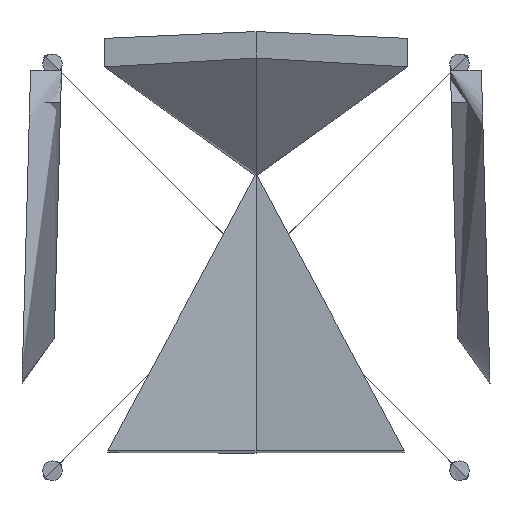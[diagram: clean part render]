
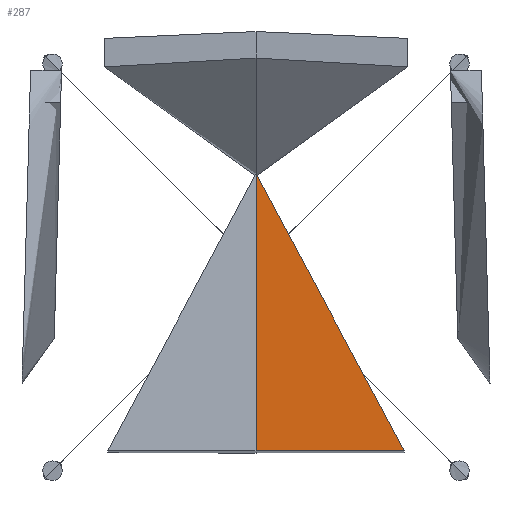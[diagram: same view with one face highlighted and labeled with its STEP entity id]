
A CAD part, top view. The second image highlights one B-rep face of the part: STEP entity #287.
In plain terms, the highlighted free-form (B-spline) face has degree [3, 3] with [4, 9] control points.
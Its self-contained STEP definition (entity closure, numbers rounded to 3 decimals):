
#287=ADVANCED_FACE('',(#411),#1604,.T.);
#411=FACE_OUTER_BOUND('',#535,.T.);
#535=EDGE_LOOP('',(#694,#695,#696,#697,#698,#699));
#694=ORIENTED_EDGE('',*,*,#1187,.T.);
#695=ORIENTED_EDGE('',*,*,#1191,.T.);
#696=ORIENTED_EDGE('',*,*,#1184,.T.);
#697=ORIENTED_EDGE('',*,*,#1193,.T.);
#698=ORIENTED_EDGE('',*,*,#1192,.F.);
#699=ORIENTED_EDGE('',*,*,#1194,.F.);
#1184=EDGE_CURVE('',#1443,#1442,#1658,.T.);
#1187=EDGE_CURVE('',#1446,#1444,#1661,.T.);
#1191=EDGE_CURVE('',#1444,#1443,#1665,.T.);
#1192=EDGE_CURVE('',#1447,#1448,#1666,.T.);
#1193=EDGE_CURVE('',#1442,#1448,#1667,.T.);
#1194=EDGE_CURVE('',#1446,#1447,#1668,.T.);
#1442=VERTEX_POINT('',#8550);
#1443=VERTEX_POINT('',#8551);
#1444=VERTEX_POINT('',#8552);
#1446=VERTEX_POINT('',#8554);
#1447=VERTEX_POINT('',#8555);
#1448=VERTEX_POINT('',#8556);
#1604=B_SPLINE_SURFACE_WITH_KNOTS('',3,3,((#6168,#6169,#6170,#6171,#6172,
#6173,#6174,#6175,#6176),(#6177,#6178,#6179,#6180,#6181,#6182,#6183,#6184,
#6185),(#6186,#6187,#6188,#6189,#6190,#6191,#6192,#6193,#6194),(#6195,#6196,
#6197,#6198,#6199,#6200,#6201,#6202,#6203)),.UNSPECIFIED.,.F.,.F.,.F.,(4,
4),(4,1,1,1,1,1,4),(0.,313.738),(-441.798,-368.165,
-294.532,-220.899,-147.266,-73.633,
0.),.UNSPECIFIED.);
#1658=B_SPLINE_CURVE_WITH_KNOTS('',3,(#8914,#8915,#8916,#8917,#8918,#8919,
#8920,#8921,#8922),.UNSPECIFIED.,.F.,.F.,(4,1,1,1,1,1,4),(0.,73.633,
147.266,220.899,294.532,368.165,441.798),
 .UNSPECIFIED.);
#1661=B_SPLINE_CURVE_WITH_KNOTS('',3,(#8939,#8940,#8941,#8942,#8943,#8944,
#8945,#8946,#8947,#8948,#8949,#8950,#8951,#8952,#8953,#8954,#8955,#8956,
#8957,#8958,#8959,#8960,#8961,#8962,#8963),.UNSPECIFIED.,.F.,.F.,(4,1,1,
1,1,1,1,1,1,1,1,1,1,1,2,1,1,1,1,1,1,4),(0.,4.583,9.166,
13.749,18.332,22.915,27.498,36.664,
54.995,73.327,91.659,100.825,109.991,
119.157,120.717,128.322,146.654,164.986,
183.318,201.649,219.981,238.313),
 .UNSPECIFIED.);
#1665=B_SPLINE_CURVE_WITH_KNOTS('',3,(#9070,#9071,#9072,#9073),
 .UNSPECIFIED.,.F.,.F.,(4,4),(-146.56,0.),.UNSPECIFIED.);
#1666=B_SPLINE_CURVE_WITH_KNOTS('',3,(#9074,#9075,#9076,#9077,#9078),
 .UNSPECIFIED.,.F.,.F.,(4,1,4),(298.037,368.165,441.798),
 .UNSPECIFIED.);
#1667=B_SPLINE_CURVE_WITH_KNOTS('',3,(#9079,#9080,#9081,#9082,#9083,#9084,
#9085),.UNSPECIFIED.,.F.,.F.,(4,3,4),(0.,146.56,313.738),
 .UNSPECIFIED.);
#1668=B_SPLINE_CURVE_WITH_KNOTS('',3,(#9086,#9087,#9088,#9089,#9090,#9091,
#9092,#9093),.UNSPECIFIED.,.F.,.F.,(4,1,1,1,1,4),(67.257,73.633,
147.266,220.899,294.532,298.037),
 .UNSPECIFIED.);
#6168=CARTESIAN_POINT('',(0.,104.914,445.761));
#6169=CARTESIAN_POINT('',(72.274,104.914,445.761));
#6170=CARTESIAN_POINT('',(139.814,105.391,455.316));
#6171=CARTESIAN_POINT('',(167.339,105.784,463.164));
#6172=CARTESIAN_POINT('',(204.305,105.447,456.434));
#6173=CARTESIAN_POINT('',(243.614,104.723,441.949));
#6174=CARTESIAN_POINT('',(201.158,103.488,417.242));
#6175=CARTESIAN_POINT('',(109.984,102.476,397.004));
#6176=CARTESIAN_POINT('',(0.,102.476,397.004));
#6177=CARTESIAN_POINT('',(0.,0.465,450.983));
#6178=CARTESIAN_POINT('',(72.274,0.465,450.983));
#6179=CARTESIAN_POINT('',(139.814,0.943,460.538));
#6180=CARTESIAN_POINT('',(167.339,1.335,468.386));
#6181=CARTESIAN_POINT('',(204.305,0.999,461.657));
#6182=CARTESIAN_POINT('',(243.614,0.275,447.172));
#6183=CARTESIAN_POINT('',(201.158,-0.961,422.465));
#6184=CARTESIAN_POINT('',(99.643,-2.234,397.004));
#6185=CARTESIAN_POINT('',(0.,-2.234,397.004));
#6186=CARTESIAN_POINT('',(0.,-103.985,456.205));
#6187=CARTESIAN_POINT('',(72.274,-103.985,456.205));
#6188=CARTESIAN_POINT('',(139.814,-103.507,465.761));
#6189=CARTESIAN_POINT('',(167.339,-103.115,473.608));
#6190=CARTESIAN_POINT('',(204.305,-103.451,466.879));
#6191=CARTESIAN_POINT('',(243.614,-104.175,452.394));
#6192=CARTESIAN_POINT('',(201.158,-105.411,427.687));
#6193=CARTESIAN_POINT('',(89.303,-106.945,397.004));
#6194=CARTESIAN_POINT('',(0.,-106.945,397.004));
#6195=CARTESIAN_POINT('',(0.,-208.433,461.428));
#6196=CARTESIAN_POINT('',(72.274,-208.433,461.428));
#6197=CARTESIAN_POINT('',(139.814,-207.955,470.983));
#6198=CARTESIAN_POINT('',(167.339,-207.563,478.831));
#6199=CARTESIAN_POINT('',(204.305,-207.899,472.102));
#6200=CARTESIAN_POINT('',(243.614,-208.623,457.617));
#6201=CARTESIAN_POINT('',(201.158,-209.859,432.91));
#6202=CARTESIAN_POINT('',(78.963,-211.654,397.004));
#6203=CARTESIAN_POINT('',(0.,-211.654,397.004));
#8550=CARTESIAN_POINT('',(0.,104.914,445.761));
#8551=CARTESIAN_POINT('',(0.,102.476,397.004));
#8552=CARTESIAN_POINT('',(0.,-44.267,397.004));
#8554=CARTESIAN_POINT('',(167.387,-210.276,424.555));
#8555=CARTESIAN_POINT('',(167.387,-207.686,476.358));
#8556=CARTESIAN_POINT('',(0.,-208.433,461.428));
#8914=CARTESIAN_POINT('',(0.,102.476,397.004));
#8915=CARTESIAN_POINT('',(109.984,102.476,397.004));
#8916=CARTESIAN_POINT('',(201.158,103.488,417.242));
#8917=CARTESIAN_POINT('',(243.614,104.723,441.949));
#8918=CARTESIAN_POINT('',(204.305,105.447,456.434));
#8919=CARTESIAN_POINT('',(167.339,105.784,463.164));
#8920=CARTESIAN_POINT('',(139.814,105.391,455.316));
#8921=CARTESIAN_POINT('',(72.274,104.914,445.761));
#8922=CARTESIAN_POINT('',(0.,104.914,445.761));
#8939=CARTESIAN_POINT('',(167.387,-210.276,424.555));
#8940=CARTESIAN_POINT('',(166.318,-209.227,424.154));
#8941=CARTESIAN_POINT('',(164.186,-207.135,423.363));
#8942=CARTESIAN_POINT('',(161.002,-204.009,422.204));
#8943=CARTESIAN_POINT('',(157.833,-200.896,421.074));
#8944=CARTESIAN_POINT('',(154.675,-197.794,419.973));
#8945=CARTESIAN_POINT('',(151.529,-194.701,418.901));
#8946=CARTESIAN_POINT('',(147.346,-190.588,417.508));
#8947=CARTESIAN_POINT('',(140.052,-183.411,415.169));
#8948=CARTESIAN_POINT('',(129.681,-173.193,412.104));
#8949=CARTESIAN_POINT('',(117.217,-160.891,408.858));
#8950=CARTESIAN_POINT('',(106.735,-150.528,406.501));
#8951=CARTESIAN_POINT('',(98.246,-142.122,404.819));
#8952=CARTESIAN_POINT('',(91.814,-135.748,403.657));
#8953=CARTESIAN_POINT('',(87.106,-131.079,402.889));
#8954=CARTESIAN_POINT('',(84.548,-128.54,402.496));
#8955=CARTESIAN_POINT('',(82.359,-126.368,402.164));
#8956=CARTESIAN_POINT('',(76.166,-120.22,401.267));
#8957=CARTESIAN_POINT('',(65.604,-109.722,399.983));
#8958=CARTESIAN_POINT('',(52.491,-96.669,398.778));
#8959=CARTESIAN_POINT('',(39.38,-83.601,397.918));
#8960=CARTESIAN_POINT('',(26.265,-70.514,397.36));
#8961=CARTESIAN_POINT('',(13.142,-57.406,397.061));
#8962=CARTESIAN_POINT('',(4.383,-48.65,397.004));
#8963=CARTESIAN_POINT('',(0.,-44.267,397.004));
#9070=CARTESIAN_POINT('',(0.,-44.267,397.004));
#9071=CARTESIAN_POINT('',(0.,4.647,397.004));
#9072=CARTESIAN_POINT('',(0.,53.562,397.004));
#9073=CARTESIAN_POINT('',(0.,102.476,397.004));
#9074=CARTESIAN_POINT('',(167.387,-207.686,476.358));
#9075=CARTESIAN_POINT('',(157.263,-207.706,475.963));
#9076=CARTESIAN_POINT('',(138.206,-207.966,470.756));
#9077=CARTESIAN_POINT('',(72.274,-208.433,461.428));
#9078=CARTESIAN_POINT('',(0.,-208.433,461.428));
#9079=CARTESIAN_POINT('',(0.,104.914,445.761));
#9080=CARTESIAN_POINT('',(0.,56.122,448.2));
#9081=CARTESIAN_POINT('',(0.,7.329,450.64));
#9082=CARTESIAN_POINT('',(0.,-41.463,453.079));
#9083=CARTESIAN_POINT('',(0.,-97.12,455.862));
#9084=CARTESIAN_POINT('',(0.,-152.777,458.645));
#9085=CARTESIAN_POINT('',(0.,-208.433,461.428));
#9086=CARTESIAN_POINT('',(167.387,-210.276,424.555));
#9087=CARTESIAN_POINT('',(170.993,-210.217,425.747));
#9088=CARTESIAN_POINT('',(214.085,-209.482,440.432));
#9089=CARTESIAN_POINT('',(243.614,-208.623,457.617));
#9090=CARTESIAN_POINT('',(204.305,-207.899,472.102));
#9091=CARTESIAN_POINT('',(179.075,-207.669,476.695));
#9092=CARTESIAN_POINT('',(167.893,-207.685,476.378));
#9093=CARTESIAN_POINT('',(167.387,-207.686,476.358));
